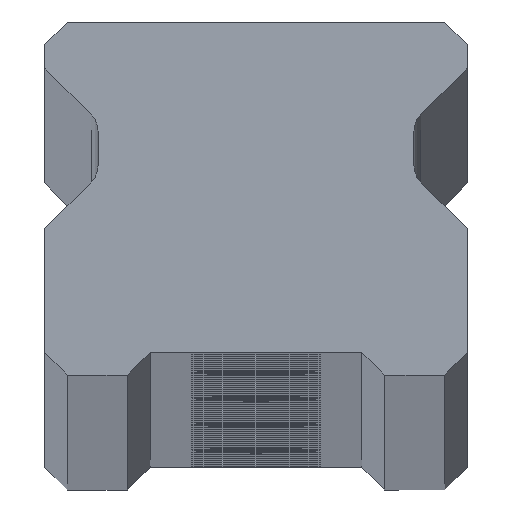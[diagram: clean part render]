
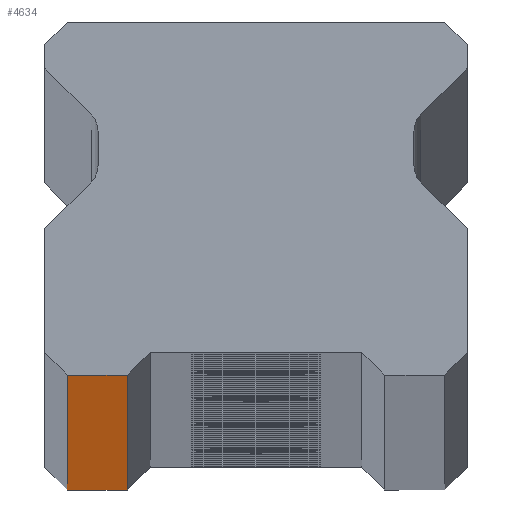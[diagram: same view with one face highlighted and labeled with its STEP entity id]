
A CAD part, top view. The second image highlights one B-rep face of the part: STEP entity #4634.
In plain terms, the highlighted planar face has unit normal (0, -1, 0).
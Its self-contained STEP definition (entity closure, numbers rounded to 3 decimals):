
#64 = EDGE_CURVE ( 'NONE', #1561, #6903, #9192, .T. ) ;
#154 = EDGE_CURVE ( 'NONE', #8389, #5172, #4055, .T. ) ;
#275 = VECTOR ( 'NONE', #8942, 1000. ) ;
#811 = DIRECTION ( 'NONE',  ( 0., 0., 1. ) ) ;
#983 = DIRECTION ( 'NONE',  ( 0., 1., 0. ) ) ;
#1561 = VERTEX_POINT ( 'NONE', #6741 ) ;
#1675 = DIRECTION ( 'NONE',  ( 1., 0., 0. ) ) ;
#2112 = FACE_OUTER_BOUND ( 'NONE', #4357, .T. ) ;
#2421 = ORIENTED_EDGE ( 'NONE', *, *, #7483, .F. ) ;
#2427 = CARTESIAN_POINT ( 'NONE',  ( 11.5, 0., 1790. ) ) ;
#2694 = VECTOR ( 'NONE', #5079, 1000. ) ;
#2764 = ORIENTED_EDGE ( 'NONE', *, *, #154, .T. ) ;
#3480 = CARTESIAN_POINT ( 'NONE',  ( -10.25, 0., 1790. ) ) ;
#3640 = ORIENTED_EDGE ( 'NONE', *, *, #9751, .T. ) ;
#3961 = CARTESIAN_POINT ( 'NONE',  ( -7., 0., -1790. ) ) ;
#4055 = LINE ( 'NONE', #7383, #7731 ) ;
#4357 = EDGE_LOOP ( 'NONE', ( #3640, #2764, #2421, #8213 ) ) ;
#4634 = ADVANCED_FACE ( 'NONE', ( #2112 ), #7114, .F. ) ;
#5079 = DIRECTION ( 'NONE',  ( 1., 0., 0. ) ) ;
#5172 = VERTEX_POINT ( 'NONE', #8110 ) ;
#6741 = CARTESIAN_POINT ( 'NONE',  ( -10.25, 0., 1790. ) ) ;
#6903 = VERTEX_POINT ( 'NONE', #8660 ) ;
#7114 = PLANE ( 'NONE',  #8900 ) ;
#7218 = DIRECTION ( 'NONE',  ( -1., 0., 0. ) ) ;
#7383 = CARTESIAN_POINT ( 'NONE',  ( -7., 0., -1790. ) ) ;
#7483 = EDGE_CURVE ( 'NONE', #1561, #5172, #7585, .T. ) ;
#7585 = LINE ( 'NONE', #2427, #8914 ) ;
#7731 = VECTOR ( 'NONE', #811, 1000. ) ;
#8018 = CARTESIAN_POINT ( 'NONE',  ( 11.5, 0., 1790. ) ) ;
#8110 = CARTESIAN_POINT ( 'NONE',  ( -7., 0., 1790. ) ) ;
#8213 = ORIENTED_EDGE ( 'NONE', *, *, #64, .T. ) ;
#8389 = VERTEX_POINT ( 'NONE', #3961 ) ;
#8660 = CARTESIAN_POINT ( 'NONE',  ( -10.25, 0., -1790. ) ) ;
#8900 = AXIS2_PLACEMENT_3D ( 'NONE', #8018, #983, #7218 ) ;
#8914 = VECTOR ( 'NONE', #1675, 1000. ) ;
#8942 = DIRECTION ( 'NONE',  ( 0., 0., -1. ) ) ;
#9192 = LINE ( 'NONE', #3480, #275 ) ;
#9435 = LINE ( 'NONE', #9813, #2694 ) ;
#9751 = EDGE_CURVE ( 'NONE', #6903, #8389, #9435, .T. ) ;
#9813 = CARTESIAN_POINT ( 'NONE',  ( 11.5, 0., -1790. ) ) ;
